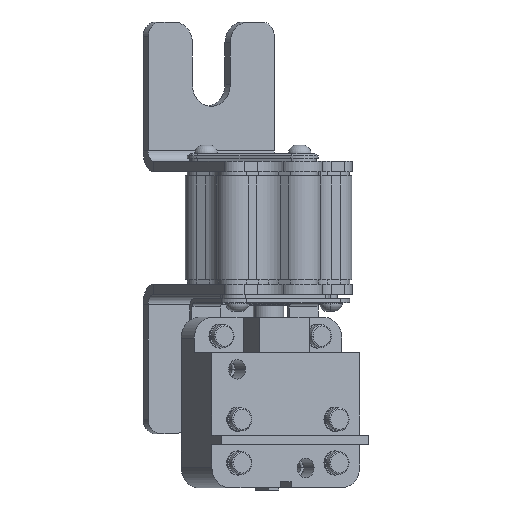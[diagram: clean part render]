
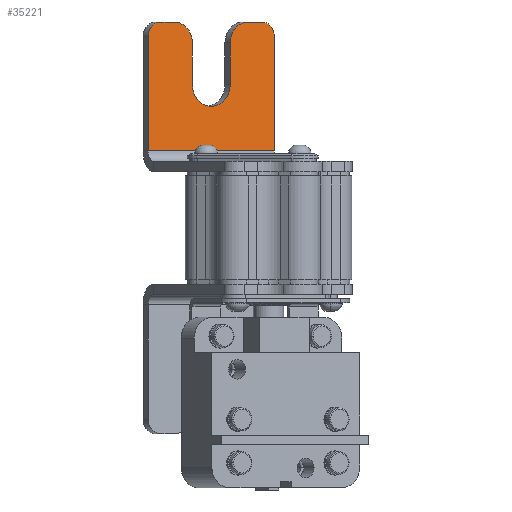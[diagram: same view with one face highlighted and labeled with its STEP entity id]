
A CAD part, front view. The second image highlights one B-rep face of the part: STEP entity #35221.
In plain terms, the highlighted planar face has unit normal (0.5, -0.866, 0).
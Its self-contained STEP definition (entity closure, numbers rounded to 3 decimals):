
#325 = DIRECTION ( 'NONE',  ( 0.5, -0.866, 0. ) ) ;
#494 = EDGE_CURVE ( 'NONE', #27163, #4289, #40922, .T. ) ;
#1869 = EDGE_CURVE ( 'NONE', #18953, #14484, #4093, .T. ) ;
#2370 = AXIS2_PLACEMENT_3D ( 'NONE', #34621, #30740, #35152 ) ;
#2625 = AXIS2_PLACEMENT_3D ( 'NONE', #22953, #23129, #6977 ) ;
#3462 = FACE_OUTER_BOUND ( 'NONE', #27927, .T. ) ;
#3475 = DIRECTION ( 'NONE',  ( 0.5, -0.866, 0. ) ) ;
#4056 = VECTOR ( 'NONE', #38530, 1000. ) ;
#4093 = CIRCLE ( 'NONE', #7220, 3.5 ) ;
#4289 = VERTEX_POINT ( 'NONE', #22559 ) ;
#5972 = ORIENTED_EDGE ( 'NONE', *, *, #31878, .F. ) ;
#6400 = CARTESIAN_POINT ( 'NONE',  ( -28.905, 15.066, 18.5 ) ) ;
#6977 = DIRECTION ( 'NONE',  ( 0., 0., 1. ) ) ;
#7220 = AXIS2_PLACEMENT_3D ( 'NONE', #36379, #32473, #12080 ) ;
#7925 = DIRECTION ( 'NONE',  ( 0., 0., 1. ) ) ;
#7933 = VECTOR ( 'NONE', #27916, 1000. ) ;
#8349 = DIRECTION ( 'NONE',  ( 0., 0., -1. ) ) ;
#8693 = VECTOR ( 'NONE', #45402, 1000. ) ;
#9701 = ORIENTED_EDGE ( 'NONE', *, *, #12377, .T. ) ;
#10374 = ORIENTED_EDGE ( 'NONE', *, *, #1869, .T. ) ;
#12080 = DIRECTION ( 'NONE',  ( 0., 0., 1. ) ) ;
#12377 = EDGE_CURVE ( 'NONE', #14484, #48106, #39147, .T. ) ;
#12831 = EDGE_CURVE ( 'NONE', #45808, #31475, #18112, .T. ) ;
#13442 = EDGE_CURVE ( 'NONE', #48106, #32499, #20562, .T. ) ;
#13840 = ORIENTED_EDGE ( 'NONE', *, *, #13442, .T. ) ;
#13918 = VERTEX_POINT ( 'NONE', #30596 ) ;
#14484 = VERTEX_POINT ( 'NONE', #19537 ) ;
#14720 = VERTEX_POINT ( 'NONE', #29334 ) ;
#14762 = EDGE_CURVE ( 'NONE', #27163, #14720, #50956, .T. ) ;
#15104 = CIRCLE ( 'NONE', #40535, 3.5 ) ;
#17038 = CARTESIAN_POINT ( 'NONE',  ( -28.905, 15.066, 49.5 ) ) ;
#17886 = CARTESIAN_POINT ( 'NONE',  ( -28.905, 15.066, 49.5 ) ) ;
#17945 = CARTESIAN_POINT ( 'NONE',  ( -25.874, 16.816, 49.5 ) ) ;
#18112 = LINE ( 'NONE', #36819, #7933 ) ;
#18307 = ORIENTED_EDGE ( 'NONE', *, *, #23712, .F. ) ;
#18953 = VERTEX_POINT ( 'NONE', #17945 ) ;
#19095 = EDGE_CURVE ( 'NONE', #13918, #31475, #15104, .T. ) ;
#19537 = CARTESIAN_POINT ( 'NONE',  ( -28.905, 15.066, 46. ) ) ;
#19583 = CARTESIAN_POINT ( 'NONE',  ( -1.626, 30.816, 49.5 ) ) ;
#19814 = CARTESIAN_POINT ( 'NONE',  ( -4.873, 28.941, 44.5 ) ) ;
#20562 = LINE ( 'NONE', #6400, #4056 ) ;
#20632 = EDGE_CURVE ( 'NONE', #45569, #36900, #36454, .T. ) ;
#20764 = DIRECTION ( 'NONE',  ( 0., 0., 1. ) ) ;
#22234 = EDGE_CURVE ( 'NONE', #45808, #36900, #28745, .T. ) ;
#22559 = CARTESIAN_POINT ( 'NONE',  ( -18.297, 21.191, 34.5 ) ) ;
#22953 = CARTESIAN_POINT ( 'NONE',  ( -28.905, 15.066, 49.5 ) ) ;
#23098 = CARTESIAN_POINT ( 'NONE',  ( -9.203, 26.441, 34.5 ) ) ;
#23129 = DIRECTION ( 'NONE',  ( 0.5, -0.866, 0. ) ) ;
#23712 = EDGE_CURVE ( 'NONE', #18953, #14720, #29028, .T. ) ;
#24684 = CARTESIAN_POINT ( 'NONE',  ( -1.626, 30.816, 46. ) ) ;
#26958 = VECTOR ( 'NONE', #42404, 1000. ) ;
#27163 = VERTEX_POINT ( 'NONE', #36017 ) ;
#27469 = ORIENTED_EDGE ( 'NONE', *, *, #12831, .F. ) ;
#27916 = DIRECTION ( 'NONE',  ( 0.866, 0.5, 0. ) ) ;
#27927 = EDGE_LOOP ( 'NONE', ( #44092, #39914, #18307, #10374, #9701, #13840, #46855, #35662, #27469, #47609, #33016, #5972 ) ) ;
#28328 = VECTOR ( 'NONE', #8349, 1000. ) ;
#28745 = CIRCLE ( 'NONE', #42798, 5. ) ;
#29028 = LINE ( 'NONE', #17038, #8693 ) ;
#29334 = CARTESIAN_POINT ( 'NONE',  ( -22.627, 18.691, 49.5 ) ) ;
#30596 = CARTESIAN_POINT ( 'NONE',  ( 1.405, 32.566, 46. ) ) ;
#30740 = DIRECTION ( 'NONE',  ( 0.5, -0.866, 0. ) ) ;
#31095 = PLANE ( 'NONE',  #2625 ) ;
#31475 = VERTEX_POINT ( 'NONE', #19583 ) ;
#31878 = EDGE_CURVE ( 'NONE', #4289, #45569, #36537, .T. ) ;
#32473 = DIRECTION ( 'NONE',  ( 0.5, -0.866, 0. ) ) ;
#32499 = VERTEX_POINT ( 'NONE', #42549 ) ;
#32572 = VECTOR ( 'NONE', #47931, 1000. ) ;
#33016 = ORIENTED_EDGE ( 'NONE', *, *, #20632, .F. ) ;
#34621 = CARTESIAN_POINT ( 'NONE',  ( -13.75, 23.816, 34.5 ) ) ;
#35152 = DIRECTION ( 'NONE',  ( 0., 0., 1. ) ) ;
#35221 = ADVANCED_FACE ( 'NONE', ( #3462 ), #31095, .T. ) ;
#35662 = ORIENTED_EDGE ( 'NONE', *, *, #19095, .T. ) ;
#36017 = CARTESIAN_POINT ( 'NONE',  ( -18.297, 21.191, 44.5 ) ) ;
#36379 = CARTESIAN_POINT ( 'NONE',  ( -25.874, 16.816, 46. ) ) ;
#36454 = LINE ( 'NONE', #36594, #32572 ) ;
#36537 = CIRCLE ( 'NONE', #2370, 5.25 ) ;
#36594 = CARTESIAN_POINT ( 'NONE',  ( -9.203, 26.441, 49.5 ) ) ;
#36819 = CARTESIAN_POINT ( 'NONE',  ( -28.905, 15.066, 49.5 ) ) ;
#36900 = VERTEX_POINT ( 'NONE', #49676 ) ;
#37137 = DIRECTION ( 'NONE',  ( 0., 0., 1. ) ) ;
#37143 = CARTESIAN_POINT ( 'NONE',  ( -18.297, 21.191, 49.5 ) ) ;
#38530 = DIRECTION ( 'NONE',  ( 0.866, 0.5, 0. ) ) ;
#38805 = DIRECTION ( 'NONE',  ( 0., 0., -1. ) ) ;
#39147 = LINE ( 'NONE', #17886, #44832 ) ;
#39914 = ORIENTED_EDGE ( 'NONE', *, *, #14762, .T. ) ;
#40535 = AXIS2_PLACEMENT_3D ( 'NONE', #24684, #325, #20764 ) ;
#40635 = CARTESIAN_POINT ( 'NONE',  ( 1.405, 32.566, 49.5 ) ) ;
#40922 = LINE ( 'NONE', #37143, #26958 ) ;
#42404 = DIRECTION ( 'NONE',  ( 0., 0., -1. ) ) ;
#42549 = CARTESIAN_POINT ( 'NONE',  ( 1.405, 32.566, 18.5 ) ) ;
#42798 = AXIS2_PLACEMENT_3D ( 'NONE', #19814, #3475, #7925 ) ;
#43344 = CARTESIAN_POINT ( 'NONE',  ( -28.905, 15.066, 18.5 ) ) ;
#44024 = CARTESIAN_POINT ( 'NONE',  ( -4.873, 28.941, 49.5 ) ) ;
#44092 = ORIENTED_EDGE ( 'NONE', *, *, #494, .F. ) ;
#44122 = AXIS2_PLACEMENT_3D ( 'NONE', #44912, #45101, #37137 ) ;
#44832 = VECTOR ( 'NONE', #38805, 1000. ) ;
#44912 = CARTESIAN_POINT ( 'NONE',  ( -22.627, 18.691, 44.5 ) ) ;
#45101 = DIRECTION ( 'NONE',  ( 0.5, -0.866, 0. ) ) ;
#45402 = DIRECTION ( 'NONE',  ( 0.866, 0.5, 0. ) ) ;
#45569 = VERTEX_POINT ( 'NONE', #23098 ) ;
#45808 = VERTEX_POINT ( 'NONE', #44024 ) ;
#46855 = ORIENTED_EDGE ( 'NONE', *, *, #47442, .F. ) ;
#47442 = EDGE_CURVE ( 'NONE', #13918, #32499, #52459, .T. ) ;
#47609 = ORIENTED_EDGE ( 'NONE', *, *, #22234, .T. ) ;
#47931 = DIRECTION ( 'NONE',  ( 0., 0., 1. ) ) ;
#48106 = VERTEX_POINT ( 'NONE', #43344 ) ;
#49676 = CARTESIAN_POINT ( 'NONE',  ( -9.203, 26.441, 44.5 ) ) ;
#50956 = CIRCLE ( 'NONE', #44122, 5. ) ;
#52459 = LINE ( 'NONE', #40635, #28328 ) ;
